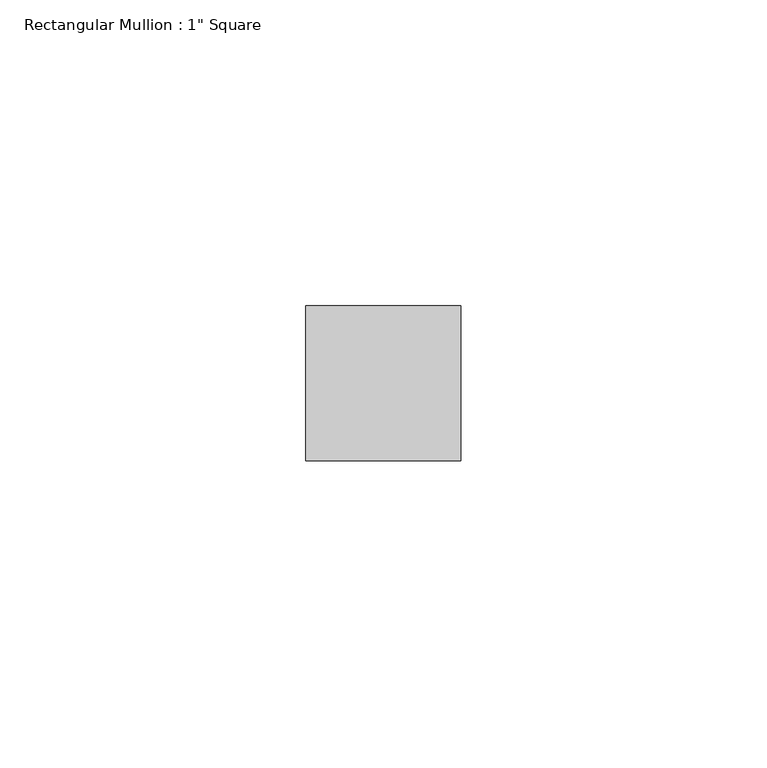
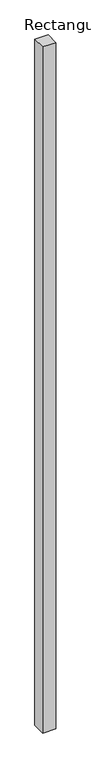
"""IFC4 building model written with IfcOpenShell, lengths in millimetres: member geometry."""

from ifc_helpers import new_model, si_unit, frame, origin, place, context, project, spatial, polyline, outline, extrude, source, transform, mapped, element, save


def member_e6283771(model_context):
    return source(origin(), model_context, "Body", "SweptSolid", [
        extrude(outline(polyline([(0.0, 12.7), (0.0, -12.7), (-25.4, -12.7), (-25.4, 12.7), (0.0, 12.7)])), frame((0.0, 0.0, -1384.518807), z_axis=(0.0, 0.0, 1.0), x_axis=(1.0, 0.0, 0.0)), (0.0, 0.0, 1.0), 1384.518807),
    ])


if __name__ == "__main__":
    model = new_model("IFC4")
    model_context = context("Model", 3, world=origin())
    ifc_project = project(units=[si_unit("LENGTHUNIT", "METRE", prefix="MILLI")], contexts=[model_context])
    site = spatial("IfcSite", under=ifc_project)
    building = spatial("IfcBuilding", under=site)
    placement = place(None, origin())
    member_shape = member_e6283771(model_context)
    element("IfcMember", 1, ObjectType="Rectangular Mullion : 1\" Square", at=placement, inside=building, context=model_context, shape_type="MappedRepresentation", body=[
        mapped(member_shape, transform((0.0, 0.0, 0.0), x_axis=(1.0, 0.0, 0.0), y_axis=(0.0, 1.0, 0.0), z_axis=(0.0, 0.0, 1.0))),
    ])
    save(model, "model.ifc")
